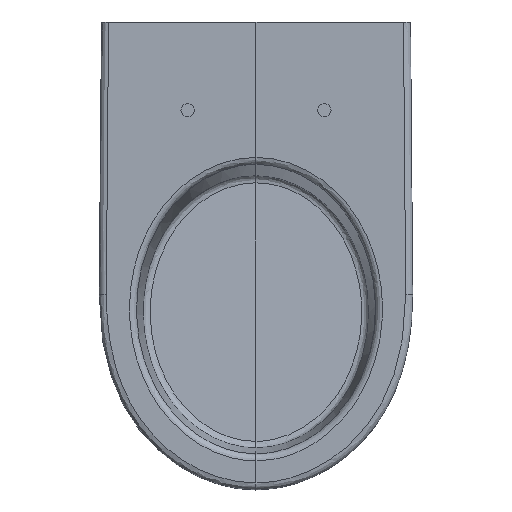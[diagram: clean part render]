
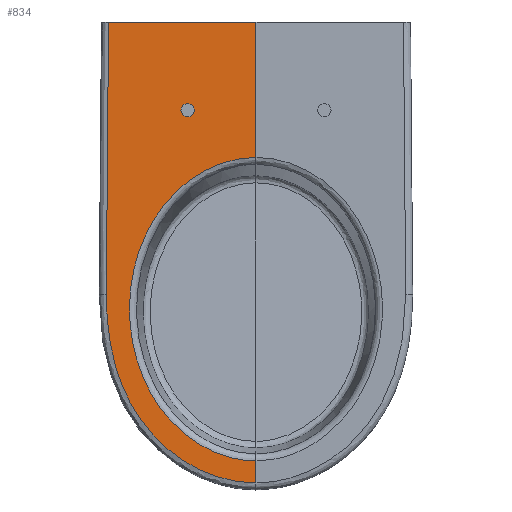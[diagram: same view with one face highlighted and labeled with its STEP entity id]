
A CAD part, top view. The second image highlights one B-rep face of the part: STEP entity #834.
In plain terms, the highlighted planar face has unit normal (0, 0, 1).
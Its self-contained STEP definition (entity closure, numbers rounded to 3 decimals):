
#14=FACE_BOUND('',#168,.T.);
#36=PLANE('',#907);
#57=LINE('',#6753,#73);
#58=LINE('',#6755,#74);
#59=LINE('',#6807,#75);
#73=VECTOR('',#1002,1.);
#74=VECTOR('',#1003,1.);
#75=VECTOR('',#1004,1.);
#111=FACE_OUTER_BOUND('',#167,.T.);
#167=EDGE_LOOP('',(#607,#608,#609,#610,#611,#612));
#168=EDGE_LOOP('',(#613));
#249=B_SPLINE_CURVE_WITH_KNOTS('',3,(#6346,#6347,#6348,#6349,#6350,#6351,
#6352,#6353,#6354,#6355,#6356,#6357,#6358,#6359,#6360,#6361),
 .UNSPECIFIED.,.F.,.F.,(4,1,1,1,1,1,1,1,1,1,1,1,1,4),(0.,
3.539,7.079,10.618,14.158,17.697,
21.236,28.315,30.675,35.394,38.934,
42.473,46.012,49.552),.UNSPECIFIED.);
#252=B_SPLINE_CURVE_WITH_KNOTS('',3,(#6757,#6758,#6759,#6760,#6761,#6762,
#6763,#6764,#6765,#6766,#6767,#6768,#6769,#6770,#6771,#6772,#6773),
 .UNSPECIFIED.,.F.,.F.,(4,1,1,1,1,1,1,1,1,1,1,1,2,4),(0.,
7.708,11.562,13.489,14.453,15.416,
17.344,19.271,23.125,26.979,30.833,
34.687,38.541,38.593),.UNSPECIFIED.);
#253=B_SPLINE_CURVE_WITH_KNOTS('',3,(#6775,#6776,#6777,#6778,#6779,#6780,
#6781,#6782,#6783,#6784,#6785,#6786,#6787,#6788,#6789,#6790,#6791,#6792,
#6793,#6794,#6795,#6796,#6797,#6798,#6799,#6800,#6801,#6802,#6803,#6804,
#6805,#6806),.UNSPECIFIED.,.F.,.F.,(4,2,2,2,2,2,2,2,2,2,2,2,2,2,2,4),(-30.417,
-28.552,-26.679,-24.798,-22.912,
-21.023,-19.13,-17.235,-15.338,
-13.438,-11.534,-9.625,-7.711,
-5.791,-3.866,0.),
 .UNSPECIFIED.);
#286=CIRCLE('',#908,7.5);
#345=VERTEX_POINT('',#6342);
#346=VERTEX_POINT('',#6344);
#347=VERTEX_POINT('',#6752);
#348=VERTEX_POINT('',#6754);
#349=VERTEX_POINT('',#6756);
#350=VERTEX_POINT('',#6774);
#351=VERTEX_POINT('',#6808);
#444=EDGE_CURVE('',#346,#345,#249,.T.);
#447=EDGE_CURVE('',#346,#347,#57,.T.);
#448=EDGE_CURVE('',#347,#348,#58,.T.);
#449=EDGE_CURVE('',#349,#348,#252,.T.);
#450=EDGE_CURVE('',#350,#349,#253,.T.);
#451=EDGE_CURVE('',#350,#345,#59,.T.);
#452=EDGE_CURVE('',#351,#351,#286,.T.);
#607=ORIENTED_EDGE('',*,*,#444,.F.);
#608=ORIENTED_EDGE('',*,*,#447,.T.);
#609=ORIENTED_EDGE('',*,*,#448,.T.);
#610=ORIENTED_EDGE('',*,*,#449,.F.);
#611=ORIENTED_EDGE('',*,*,#450,.F.);
#612=ORIENTED_EDGE('',*,*,#451,.T.);
#613=ORIENTED_EDGE('',*,*,#452,.F.);
#834=ADVANCED_FACE('',(#111,#14),#36,.F.);
#907=AXIS2_PLACEMENT_3D('',#6751,#1000,#1001);
#908=AXIS2_PLACEMENT_3D('',#6809,#1005,#1006);
#1000=DIRECTION('center_axis',(0.,0.,-1.));
#1001=DIRECTION('ref_axis',(0.,1.,0.));
#1002=DIRECTION('',(0.,1.,0.));
#1003=DIRECTION('',(-1.,0.,0.));
#1004=DIRECTION('',(0.,1.,0.));
#1005=DIRECTION('center_axis',(0.,0.,1.));
#1006=DIRECTION('ref_axis',(-1.,0.,0.));
#6342=CARTESIAN_POINT('',(0.,-496.928,410.));
#6344=CARTESIAN_POINT('',(0.,-153.362,410.));
#6346=CARTESIAN_POINT('Ctrl Pts',(0.,-153.362,
410.));
#6347=CARTESIAN_POINT('Ctrl Pts',(-11.798,-153.362,410.));
#6348=CARTESIAN_POINT('Ctrl Pts',(-35.363,-157.09,410.));
#6349=CARTESIAN_POINT('Ctrl Pts',(-67.718,-172.199,410.));
#6350=CARTESIAN_POINT('Ctrl Pts',(-95.196,-194.917,410.));
#6351=CARTESIAN_POINT('Ctrl Pts',(-116.77,-223.239,410.));
#6352=CARTESIAN_POINT('Ctrl Pts',(-132.115,-255.318,410.));
#6353=CARTESIAN_POINT('Ctrl Pts',(-144.323,-301.099,410.));
#6354=CARTESIAN_POINT('Ctrl Pts',(-144.258,-345.017,410.));
#6355=CARTESIAN_POINT('Ctrl Pts',(-133.355,-391.007,410.));
#6356=CARTESIAN_POINT('Ctrl Pts',(-119.061,-423.7,410.));
#6357=CARTESIAN_POINT('Ctrl Pts',(-95.121,-455.198,410.));
#6358=CARTESIAN_POINT('Ctrl Pts',(-67.668,-477.947,410.));
#6359=CARTESIAN_POINT('Ctrl Pts',(-35.355,-493.13,410.));
#6360=CARTESIAN_POINT('Ctrl Pts',(-11.798,-496.928,410.));
#6361=CARTESIAN_POINT('Ctrl Pts',(0.,-496.928,
410.));
#6751=CARTESIAN_POINT('Origin',(0.,-554.629,
410.));
#6752=CARTESIAN_POINT('',(0.,0.,410.));
#6753=CARTESIAN_POINT('',(0.,-554.629,410.));
#6754=CARTESIAN_POINT('',(-167.013,0.,410.));
#6755=CARTESIAN_POINT('',(0.,0.,410.));
#6756=CARTESIAN_POINT('',(-169.514,-308.448,410.));
#6757=CARTESIAN_POINT('Ctrl Pts',(-169.514,-308.448,410.));
#6758=CARTESIAN_POINT('Ctrl Pts',(-169.514,-282.754,410.));
#6759=CARTESIAN_POINT('Ctrl Pts',(-169.436,-244.208,410.));
#6760=CARTESIAN_POINT('Ctrl Pts',(-169.209,-199.254,410.));
#6761=CARTESIAN_POINT('Ctrl Pts',(-169.06,-176.761,410.));
#6762=CARTESIAN_POINT('Ctrl Pts',(-168.966,-163.933,410.));
#6763=CARTESIAN_POINT('Ctrl Pts',(-168.865,-151.032,410.));
#6764=CARTESIAN_POINT('Ctrl Pts',(-168.729,-135.269,410.));
#6765=CARTESIAN_POINT('Ctrl Pts',(-168.499,-111.294,410.));
#6766=CARTESIAN_POINT('Ctrl Pts',(-168.194,-83.624,410.));
#6767=CARTESIAN_POINT('Ctrl Pts',(-167.828,-54.728,410.));
#6768=CARTESIAN_POINT('Ctrl Pts',(-167.489,-30.638,410.));
#6769=CARTESIAN_POINT('Ctrl Pts',(-167.205,-11.906,410.));
#6770=CARTESIAN_POINT('Ctrl Pts',(-167.067,-3.341,410.));
#6771=CARTESIAN_POINT('Ctrl Pts',(-167.015,-0.086,
410.));
#6772=CARTESIAN_POINT('Ctrl Pts',(-167.014,-0.043,
410.));
#6773=CARTESIAN_POINT('Ctrl Pts',(-167.013,0.,
410.));
#6774=CARTESIAN_POINT('',(0.,-521.988,410.));
#6775=CARTESIAN_POINT('Ctrl Pts',(0.,-521.988,
410.));
#6776=CARTESIAN_POINT('Ctrl Pts',(-6.216,-521.988,410.));
#6777=CARTESIAN_POINT('Ctrl Pts',(-12.43,-521.549,410.));
#6778=CARTESIAN_POINT('Ctrl Pts',(-24.774,-519.859,410.));
#6779=CARTESIAN_POINT('Ctrl Pts',(-30.904,-518.605,410.));
#6780=CARTESIAN_POINT('Ctrl Pts',(-42.985,-515.351,410.));
#6781=CARTESIAN_POINT('Ctrl Pts',(-48.936,-513.347,410.));
#6782=CARTESIAN_POINT('Ctrl Pts',(-60.582,-508.656,410.));
#6783=CARTESIAN_POINT('Ctrl Pts',(-66.275,-505.966,410.));
#6784=CARTESIAN_POINT('Ctrl Pts',(-77.334,-499.956,410.));
#6785=CARTESIAN_POINT('Ctrl Pts',(-82.698,-496.634,410.));
#6786=CARTESIAN_POINT('Ctrl Pts',(-93.034,-489.415,410.));
#6787=CARTESIAN_POINT('Ctrl Pts',(-98.006,-485.516,410.));
#6788=CARTESIAN_POINT('Ctrl Pts',(-107.499,-477.193,410.));
#6789=CARTESIAN_POINT('Ctrl Pts',(-112.019,-472.769,410.));
#6790=CARTESIAN_POINT('Ctrl Pts',(-120.562,-463.454,410.));
#6791=CARTESIAN_POINT('Ctrl Pts',(-124.585,-458.563,410.));
#6792=CARTESIAN_POINT('Ctrl Pts',(-132.099,-448.378,410.));
#6793=CARTESIAN_POINT('Ctrl Pts',(-135.59,-443.083,410.));
#6794=CARTESIAN_POINT('Ctrl Pts',(-142.026,-432.157,410.));
#6795=CARTESIAN_POINT('Ctrl Pts',(-144.97,-426.526,410.));
#6796=CARTESIAN_POINT('Ctrl Pts',(-150.314,-414.995,410.));
#6797=CARTESIAN_POINT('Ctrl Pts',(-152.712,-409.094,410.));
#6798=CARTESIAN_POINT('Ctrl Pts',(-156.986,-397.089,410.));
#6799=CARTESIAN_POINT('Ctrl Pts',(-158.859,-390.984,410.));
#6800=CARTESIAN_POINT('Ctrl Pts',(-162.112,-378.625,410.));
#6801=CARTESIAN_POINT('Ctrl Pts',(-163.491,-372.371,410.));
#6802=CARTESIAN_POINT('Ctrl Pts',(-165.797,-359.764,410.));
#6803=CARTESIAN_POINT('Ctrl Pts',(-166.723,-353.41,410.));
#6804=CARTESIAN_POINT('Ctrl Pts',(-168.891,-334.226,410.));
#6805=CARTESIAN_POINT('Ctrl Pts',(-169.514,-321.335,410.));
#6806=CARTESIAN_POINT('Ctrl Pts',(-169.514,-308.448,410.));
#6807=CARTESIAN_POINT('',(0.,-554.629,410.));
#6808=CARTESIAN_POINT('',(-77.5,-92.5,410.));
#6809=CARTESIAN_POINT('Origin',(-77.5,-100.,410.));
